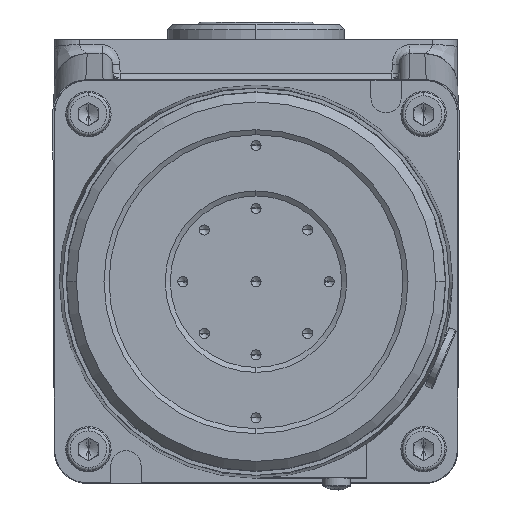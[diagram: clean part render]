
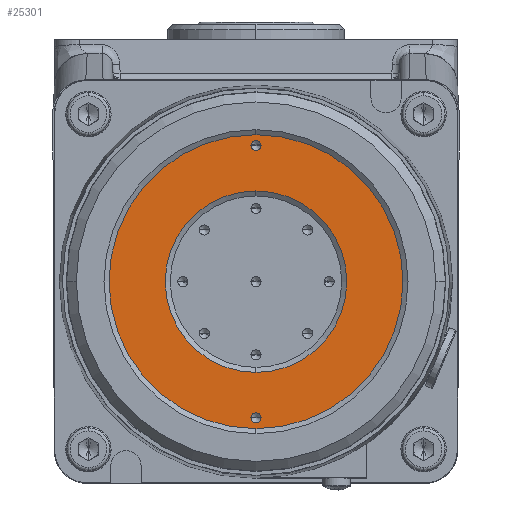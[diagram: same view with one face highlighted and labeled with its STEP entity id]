
A CAD part, front view. The second image highlights one B-rep face of the part: STEP entity #25301.
In plain terms, the highlighted planar face has unit normal (0, -1, 0) as drawn and (0, 1, 0) by its records, which use the part's own axes.
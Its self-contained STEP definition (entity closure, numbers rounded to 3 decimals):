
#743 = EDGE_CURVE ( 'NONE', #1711, #42304, #15874, .T. ) ;
#1711 = VERTEX_POINT ( 'NONE', #2572 ) ;
#2572 = CARTESIAN_POINT ( 'NONE',  ( 0., 78.75, -29.15 ) ) ;
#2739 = AXIS2_PLACEMENT_3D ( 'NONE', #33274, #72691, #38993 ) ;
#3657 = DIRECTION ( 'NONE',  ( 0., -1., 0. ) ) ;
#6364 = DIRECTION ( 'NONE',  ( 0., 1., 0. ) ) ;
#7789 = DIRECTION ( 'NONE',  ( 0., -1., 0. ) ) ;
#7846 = EDGE_CURVE ( 'NONE', #19072, #18985, #14766, .T. ) ;
#7891 = ORIENTED_EDGE ( 'NONE', *, *, #56127, .T. ) ;
#7972 = DIRECTION ( 'NONE',  ( 0., -1., 0. ) ) ;
#10673 = EDGE_CURVE ( 'NONE', #27278, #55661, #33236, .T. ) ;
#12254 = VERTEX_POINT ( 'NONE', #64107 ) ;
#12747 = AXIS2_PLACEMENT_3D ( 'NONE', #58184, #24277, #63908 ) ;
#14766 = CIRCLE ( 'NONE', #39526, 1. ) ;
#15874 = CIRCLE ( 'NONE', #39185, 29.15 ) ;
#17147 = AXIS2_PLACEMENT_3D ( 'NONE', #37918, #3657, #43602 ) ;
#17379 = EDGE_LOOP ( 'NONE', ( #45865, #47406 ) ) ;
#18872 = CARTESIAN_POINT ( 'NONE',  ( -27., 78.75, 1. ) ) ;
#18985 = VERTEX_POINT ( 'NONE', #58777 ) ;
#19072 = VERTEX_POINT ( 'NONE', #28137 ) ;
#19679 = EDGE_CURVE ( 'NONE', #12254, #53844, #36528, .T. ) ;
#22658 = ORIENTED_EDGE ( 'NONE', *, *, #49041, .T. ) ;
#24043 = CARTESIAN_POINT ( 'NONE',  ( 0., 78.75, 0. ) ) ;
#24277 = DIRECTION ( 'NONE',  ( 0., -1., 0. ) ) ;
#25301 = ADVANCED_FACE ( 'NONE', ( #56614, #56755, #57540, #56532 ), #40642, .T. ) ;
#25811 = CARTESIAN_POINT ( 'NONE',  ( 0., 78.75, -18. ) ) ;
#26350 = ORIENTED_EDGE ( 'NONE', *, *, #10673, .T. ) ;
#27278 = VERTEX_POINT ( 'NONE', #18872 ) ;
#28137 = CARTESIAN_POINT ( 'NONE',  ( 27., 78.75, 1. ) ) ;
#28944 = CARTESIAN_POINT ( 'NONE',  ( 0., 78.75, 0. ) ) ;
#29814 = DIRECTION ( 'NONE',  ( 0., 0., 1. ) ) ;
#30567 = DIRECTION ( 'NONE',  ( 0., -1., 0. ) ) ;
#33236 = CIRCLE ( 'NONE', #12747, 1. ) ;
#33274 = CARTESIAN_POINT ( 'NONE',  ( -27., 78.75, 0. ) ) ;
#33669 = DIRECTION ( 'NONE',  ( 0., -1., 0. ) ) ;
#36528 = CIRCLE ( 'NONE', #42216, 18. ) ;
#37918 = CARTESIAN_POINT ( 'NONE',  ( 0., 78.75, 0. ) ) ;
#38993 = DIRECTION ( 'NONE',  ( 0., 0., 1. ) ) ;
#39185 = AXIS2_PLACEMENT_3D ( 'NONE', #42192, #7972, #47821 ) ;
#39526 = AXIS2_PLACEMENT_3D ( 'NONE', #64420, #30567, #70045 ) ;
#40642 = PLANE ( 'NONE',  #66029 ) ;
#40724 = EDGE_LOOP ( 'NONE', ( #65301, #7891 ) ) ;
#42003 = CARTESIAN_POINT ( 'NONE',  ( 27., 78.75, 0. ) ) ;
#42192 = CARTESIAN_POINT ( 'NONE',  ( 0., 78.75, 0. ) ) ;
#42216 = AXIS2_PLACEMENT_3D ( 'NONE', #24043, #63670, #29814 ) ;
#42304 = VERTEX_POINT ( 'NONE', #47073 ) ;
#42823 = CIRCLE ( 'NONE', #44489, 18. ) ;
#43602 = DIRECTION ( 'NONE',  ( 0., 0., -1. ) ) ;
#44489 = AXIS2_PLACEMENT_3D ( 'NONE', #67420, #33669, #73086 ) ;
#45865 = ORIENTED_EDGE ( 'NONE', *, *, #19679, .T. ) ;
#46259 = DIRECTION ( 'NONE',  ( 0., 0., 1. ) ) ;
#47073 = CARTESIAN_POINT ( 'NONE',  ( 0., 78.75, 29.15 ) ) ;
#47406 = ORIENTED_EDGE ( 'NONE', *, *, #59277, .T. ) ;
#47579 = ORIENTED_EDGE ( 'NONE', *, *, #69437, .F. ) ;
#47633 = DIRECTION ( 'NONE',  ( 0., 0., 1. ) ) ;
#47821 = DIRECTION ( 'NONE',  ( 0., 0., -1. ) ) ;
#49041 = EDGE_CURVE ( 'NONE', #55661, #27278, #59319, .T. ) ;
#49092 = EDGE_LOOP ( 'NONE', ( #26350, #22658 ) ) ;
#49240 = EDGE_LOOP ( 'NONE', ( #67442, #47579 ) ) ;
#49500 = AXIS2_PLACEMENT_3D ( 'NONE', #42003, #7789, #47633 ) ;
#53476 = CIRCLE ( 'NONE', #49500, 1. ) ;
#53844 = VERTEX_POINT ( 'NONE', #25811 ) ;
#55661 = VERTEX_POINT ( 'NONE', #68486 ) ;
#56127 = EDGE_CURVE ( 'NONE', #18985, #19072, #53476, .T. ) ;
#56532 = FACE_OUTER_BOUND ( 'NONE', #49240, .T. ) ;
#56614 = FACE_BOUND ( 'NONE', #40724, .T. ) ;
#56755 = FACE_BOUND ( 'NONE', #49092, .T. ) ;
#57540 = FACE_BOUND ( 'NONE', #17379, .T. ) ;
#57980 = CIRCLE ( 'NONE', #17147, 29.15 ) ;
#58184 = CARTESIAN_POINT ( 'NONE',  ( -27., 78.75, 0. ) ) ;
#58777 = CARTESIAN_POINT ( 'NONE',  ( 27., 78.75, -1. ) ) ;
#59277 = EDGE_CURVE ( 'NONE', #53844, #12254, #42823, .T. ) ;
#59319 = CIRCLE ( 'NONE', #2739, 1. ) ;
#63670 = DIRECTION ( 'NONE',  ( 0., -1., 0. ) ) ;
#63908 = DIRECTION ( 'NONE',  ( 0., 0., 1. ) ) ;
#64107 = CARTESIAN_POINT ( 'NONE',  ( 0., 78.75, 18. ) ) ;
#64420 = CARTESIAN_POINT ( 'NONE',  ( 27., 78.75, 0. ) ) ;
#65301 = ORIENTED_EDGE ( 'NONE', *, *, #7846, .T. ) ;
#66029 = AXIS2_PLACEMENT_3D ( 'NONE', #28944, #6364, #46259 ) ;
#67420 = CARTESIAN_POINT ( 'NONE',  ( 0., 78.75, 0. ) ) ;
#67442 = ORIENTED_EDGE ( 'NONE', *, *, #743, .F. ) ;
#68486 = CARTESIAN_POINT ( 'NONE',  ( -27., 78.75, -1. ) ) ;
#69437 = EDGE_CURVE ( 'NONE', #42304, #1711, #57980, .T. ) ;
#70045 = DIRECTION ( 'NONE',  ( 0., 0., 1. ) ) ;
#72691 = DIRECTION ( 'NONE',  ( 0., -1., 0. ) ) ;
#73086 = DIRECTION ( 'NONE',  ( 0., 0., 1. ) ) ;
